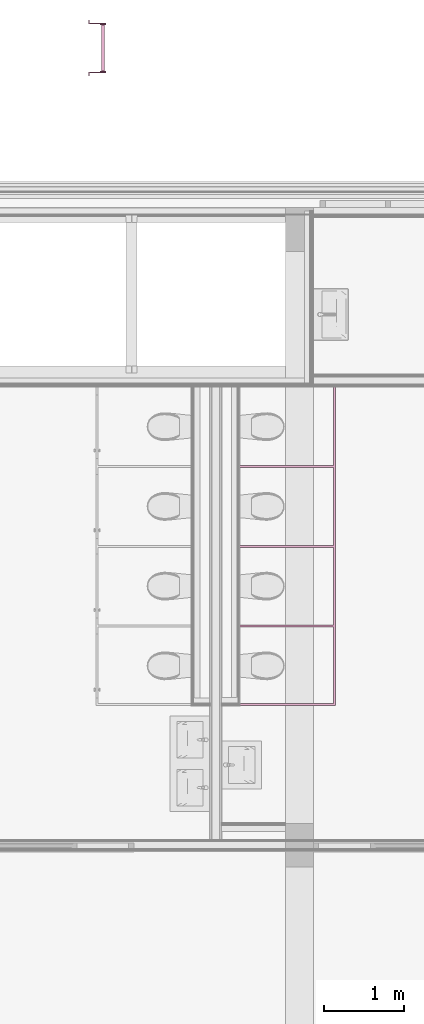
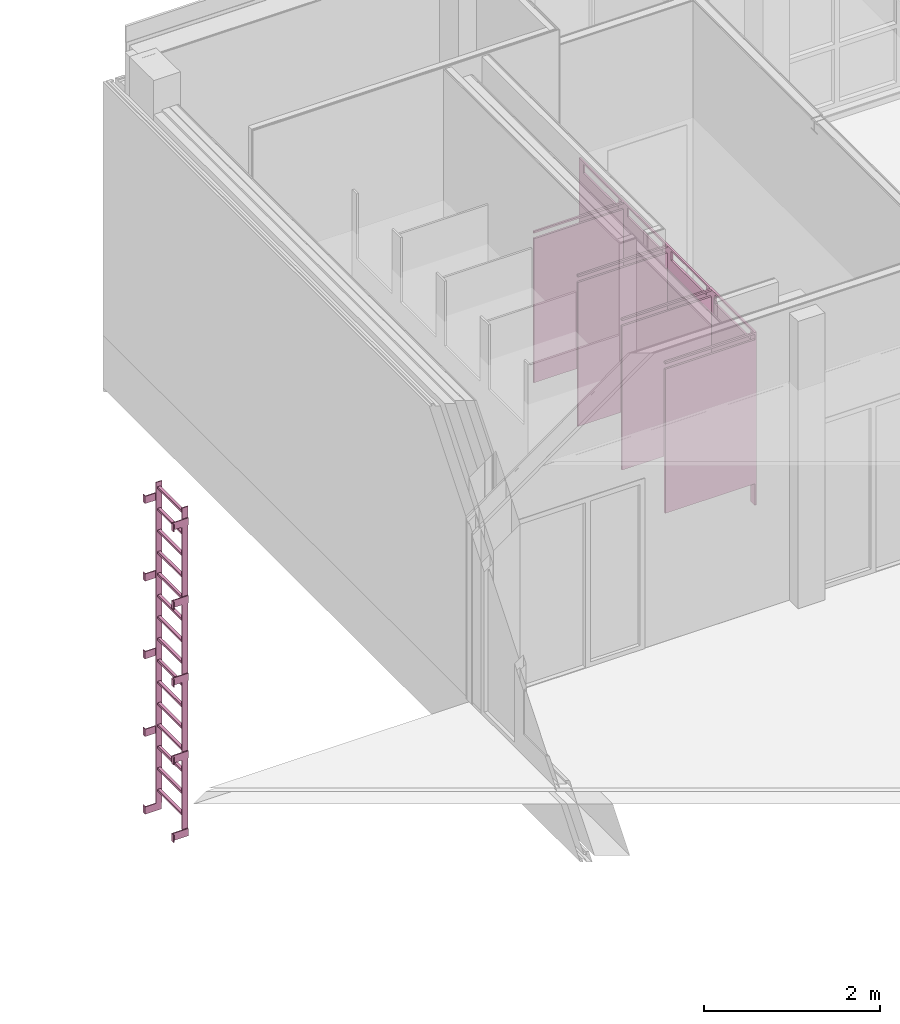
# One storey, part 54 of 54: 2 furnishings.
"""IFC2X3 building model written with IfcOpenShell, lengths in millimetres."""

from ifc_helpers import new_model, entity, si_unit, converted_unit, derived_unit, money_unit, direction, frame, origin_with_axes, place, context, subcontext, project, spatial, open_shell, faceted_brep, surface_model, type_object, element, save


model = new_model("IFC2X3")

# Units and contexts
model_context = context("Model", 3, precision=0.01, world=origin_with_axes(), true_north=direction((0.0, 1.0)))
body_context = subcontext(model_context, "Body", "Model", "MODEL_VIEW")
ifc_project = project(units=[si_unit("LENGTHUNIT", "METRE", prefix="MILLI"), si_unit("AREAUNIT", "SQUARE_METRE"), si_unit("VOLUMEUNIT", "CUBIC_METRE"), converted_unit("PLANEANGLEUNIT", "DEGREE", entity("IfcPlaneAngleMeasure", 0.0174532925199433), si_unit("PLANEANGLEUNIT", "RADIAN"), dimensions=[0, 0, 0, 0, 0, 0, 0]), money_unit("EUR"), converted_unit("TIMEUNIT", "Year", entity("IfcTimeMeasure", 31557600.0), si_unit("TIMEUNIT", "SECOND"), dimensions=[0, 0, 1, 0, 0, 0, 0]), si_unit("MASSUNIT", "GRAM", prefix="KILO"), si_unit("THERMODYNAMICTEMPERATUREUNIT", "DEGREE_CELSIUS"), si_unit("LUMINOUSINTENSITYUNIT", "LUMEN"), si_unit("ENERGYUNIT", "JOULE", prefix="MEGA"), derived_unit("THERMALCONDUCTANCEUNIT", [(si_unit("POWERUNIT", "WATT"), 1), (si_unit("LENGTHUNIT", "METRE"), -1), (si_unit("THERMODYNAMICTEMPERATUREUNIT", "KELVIN"), -1)]), derived_unit("SPECIFICHEATCAPACITYUNIT", [(si_unit("ENERGYUNIT", "JOULE"), 1), (si_unit("MASSUNIT", "GRAM", prefix="KILO"), -1), (si_unit("THERMODYNAMICTEMPERATUREUNIT", "KELVIN"), -1)]), derived_unit("MASSDENSITYUNIT", [(si_unit("MASSUNIT", "GRAM", prefix="KILO"), 1), (si_unit("VOLUMEUNIT", "CUBIC_METRE"), -1)])], contexts=[model_context])

# Site, building, storey
site_placement = place(None, origin_with_axes())
site = spatial("IfcSite", under=ifc_project, at=site_placement, Name="<site naam>", CompositionType="ELEMENT")
building_placement = place(site_placement, origin_with_axes())
building = spatial("IfcBuilding", under=site, at=building_placement, Name="<Naam gebouw>", CompositionType="ELEMENT")
storey_placement = place(building_placement, frame((0.0, 0.0, 8500.0), z_axis=(0.0, 0.0, 1.0), x_axis=(1.0, 0.0, 0.0)))
storey = spatial("IfcBuildingStorey", under=building, at=storey_placement, Name="02 2e verdieping", CompositionType="ELEMENT", Elevation=8500.0)

# Furnishings
furnishing_element_type_1 = type_object("IfcFurnishingElementType", Name="Muurladder 27")
furnishing_1_placement = place(storey_placement, frame((13356.60985489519, 22000.00000794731, -8500.0), z_axis=(0.0, 0.0, 1.0), x_axis=(0.0, 1.0, 0.0)))
element("IfcFurnishingElement", 1, at=furnishing_1_placement, inside=storey, type_object=furnishing_element_type_1, Name="47_Object-011_Lege", context=body_context, shape_type="Brep", body=[
    faceted_brep([(-350.8, 0.0, 101.6), (-350.8, -12.7, 101.6), (-350.8, -12.7, 203.2), (-350.8, 0.0, 203.2), (-300.0, 0.0, 101.6), (-300.0, -215.9, 101.6), (-312.7, -215.9, 101.6), (-312.7, -12.7, 101.6), (-312.7, -12.7, 203.2), (-312.7, -215.9, 203.2), (-300.0, -215.9, 203.2), (-300.0, 0.0, 203.2)], [[[0, 1, 2, 3]], [[0, 4, 5, 6, 7, 1]], [[1, 7, 8, 2]], [[3, 2, 8, 9, 10, 11]], [[4, 0, 3, 11]], [[5, 4, 11, 10]], [[6, 5, 10, 9]], [[7, 6, 9, 8]]]),
    faceted_brep([(-350.8, 0.0, 1179.349544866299), (-350.8, -12.7, 1179.349544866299), (-350.8, -12.7, 1280.949544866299), (-350.8, 0.0, 1280.949544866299), (-300.0, 0.0, 1179.349544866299), (-300.0, -215.9, 1179.349544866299), (-312.7, -215.9, 1179.349544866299), (-312.7, -12.7, 1179.349544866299), (-312.7, -12.7, 1280.949544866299), (-312.7, -215.9, 1280.949544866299), (-300.0, -215.9, 1280.949544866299), (-300.0, 0.0, 1280.949544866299)], [[[0, 1, 2, 3]], [[0, 4, 5, 6, 7, 1]], [[1, 7, 8, 2]], [[3, 2, 8, 9, 10, 11]], [[4, 0, 3, 11]], [[5, 4, 11, 10]], [[6, 5, 10, 9]], [[7, 6, 9, 8]]]),
    faceted_brep([(-350.8, 0.0, 2257.099089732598), (-350.8, -12.7, 2257.099089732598), (-350.8, -12.7, 2358.699089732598), (-350.8, 0.0, 2358.699089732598), (-300.0, 0.0, 2257.099089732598), (-300.0, -215.9, 2257.099089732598), (-312.7, -215.9, 2257.099089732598), (-312.7, -12.7, 2257.099089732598), (-312.7, -12.7, 2358.699089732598), (-312.7, -215.9, 2358.699089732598), (-300.0, -215.9, 2358.699089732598), (-300.0, 0.0, 2358.699089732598)], [[[0, 1, 2, 3]], [[0, 4, 5, 6, 7, 1]], [[1, 7, 8, 2]], [[3, 2, 8, 9, 10, 11]], [[4, 0, 3, 11]], [[5, 4, 11, 10]], [[6, 5, 10, 9]], [[7, 6, 9, 8]]]),
    faceted_brep([(-350.8, 0.0, 3334.848634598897), (-350.8, -12.7, 3334.848634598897), (-350.8, -12.7, 3436.448634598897), (-350.8, 0.0, 3436.448634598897), (-300.0, 0.0, 3334.848634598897), (-300.0, -215.9, 3334.848634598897), (-312.7, -215.9, 3334.848634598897), (-312.7, -12.7, 3334.848634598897), (-312.7, -12.7, 3436.448634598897), (-312.7, -215.9, 3436.448634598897), (-300.0, -215.9, 3436.448634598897), (-300.0, 0.0, 3436.448634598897)], [[[0, 1, 2, 3]], [[0, 4, 5, 6, 7, 1]], [[1, 7, 8, 2]], [[3, 2, 8, 9, 10, 11]], [[4, 0, 3, 11]], [[5, 4, 11, 10]], [[6, 5, 10, 9]], [[7, 6, 9, 8]]]),
    faceted_brep([(-350.8, 0.0, 4412.598179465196), (-350.8, -12.7, 4412.598179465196), (-350.8, -12.7, 4514.198179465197), (-350.8, 0.0, 4514.198179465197), (-300.0, 0.0, 4412.598179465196), (-300.0, -215.9, 4412.598179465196), (-312.7, -215.9, 4412.598179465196), (-312.7, -12.7, 4412.598179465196), (-312.7, -12.7, 4514.198179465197), (-312.7, -215.9, 4514.198179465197), (-300.0, -215.9, 4514.198179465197), (-300.0, 0.0, 4514.198179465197)], [[[0, 1, 2, 3]], [[0, 4, 5, 6, 7, 1]], [[1, 7, 8, 2]], [[3, 2, 8, 9, 10, 11]], [[4, 0, 3, 11]], [[5, 4, 11, 10]], [[6, 5, 10, 9]], [[7, 6, 9, 8]]]),
    faceted_brep([(300.0, 0.0, 101.6), (300.0, -215.9, 101.6), (300.0, -215.9, 203.2), (300.0, 0.0, 203.2), (350.8, 0.0, 101.6), (350.8, -12.7, 101.6), (312.7, -12.7, 101.6), (312.7, -215.9, 101.6), (312.7, -215.9, 203.2), (312.7, -12.7, 203.2), (350.8, -12.7, 203.2), (350.8, 0.0, 203.2)], [[[0, 1, 2, 3]], [[0, 4, 5, 6, 7, 1]], [[1, 7, 8, 2]], [[3, 2, 8, 9, 10, 11]], [[4, 0, 3, 11]], [[5, 4, 11, 10]], [[6, 5, 10, 9]], [[7, 6, 9, 8]]]),
    faceted_brep([(300.0, 0.0, 1179.349544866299), (300.0, -215.9, 1179.349544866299), (300.0, -215.9, 1280.949544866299), (300.0, 0.0, 1280.949544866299), (350.8, 0.0, 1179.349544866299), (350.8, -12.7, 1179.349544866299), (312.7, -12.7, 1179.349544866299), (312.7, -215.9, 1179.349544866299), (312.7, -215.9, 1280.949544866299), (312.7, -12.7, 1280.949544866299), (350.8, -12.7, 1280.949544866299), (350.8, 0.0, 1280.949544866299)], [[[0, 1, 2, 3]], [[0, 4, 5, 6, 7, 1]], [[1, 7, 8, 2]], [[3, 2, 8, 9, 10, 11]], [[4, 0, 3, 11]], [[5, 4, 11, 10]], [[6, 5, 10, 9]], [[7, 6, 9, 8]]]),
    faceted_brep([(300.0, 0.0, 2257.099089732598), (300.0, -215.9, 2257.099089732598), (300.0, -215.9, 2358.699089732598), (300.0, 0.0, 2358.699089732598), (350.8, 0.0, 2257.099089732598), (350.8, -12.7, 2257.099089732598), (312.7, -12.7, 2257.099089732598), (312.7, -215.9, 2257.099089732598), (312.7, -215.9, 2358.699089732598), (312.7, -12.7, 2358.699089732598), (350.8, -12.7, 2358.699089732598), (350.8, 0.0, 2358.699089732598)], [[[0, 1, 2, 3]], [[0, 4, 5, 6, 7, 1]], [[1, 7, 8, 2]], [[3, 2, 8, 9, 10, 11]], [[4, 0, 3, 11]], [[5, 4, 11, 10]], [[6, 5, 10, 9]], [[7, 6, 9, 8]]]),
    faceted_brep([(300.0, 0.0, 3334.848634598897), (300.0, -215.9, 3334.848634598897), (300.0, -215.9, 3436.448634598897), (300.0, 0.0, 3436.448634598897), (350.8, 0.0, 3334.848634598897), (350.8, -12.7, 3334.848634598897), (312.7, -12.7, 3334.848634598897), (312.7, -215.9, 3334.848634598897), (312.7, -215.9, 3436.448634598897), (312.7, -12.7, 3436.448634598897), (350.8, -12.7, 3436.448634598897), (350.8, 0.0, 3436.448634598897)], [[[0, 1, 2, 3]], [[0, 4, 5, 6, 7, 1]], [[1, 7, 8, 2]], [[3, 2, 8, 9, 10, 11]], [[4, 0, 3, 11]], [[5, 4, 11, 10]], [[6, 5, 10, 9]], [[7, 6, 9, 8]]]),
    faceted_brep([(300.0, 0.0, 4412.598179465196), (300.0, -215.9, 4412.598179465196), (300.0, -215.9, 4514.198179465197), (300.0, 0.0, 4514.198179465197), (350.8, 0.0, 4412.598179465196), (350.8, -12.7, 4412.598179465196), (312.7, -12.7, 4412.598179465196), (312.7, -215.9, 4412.598179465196), (312.7, -215.9, 4514.198179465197), (312.7, -12.7, 4514.198179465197), (350.8, -12.7, 4514.198179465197), (350.8, 0.0, 4514.198179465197)], [[[0, 1, 2, 3]], [[0, 4, 5, 6, 7, 1]], [[1, 7, 8, 2]], [[3, 2, 8, 9, 10, 11]], [[4, 0, 3, 11]], [[5, 4, 11, 10]], [[6, 5, 10, 9]], [[7, 6, 9, 8]]]),
    faceted_brep([(-300.0, -215.9, 203.2), (-287.3, -215.9, 203.2), (-287.3, -215.9, 4666.598179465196), (-300.0, -215.9, 4666.598179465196), (-300.0, -139.7, 203.2), (-287.3, -139.7, 203.2), (-287.3, -139.7, 4666.598179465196), (-300.0, -139.7, 4666.598179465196)], [[[0, 1, 2, 3]], [[0, 4, 5, 1]], [[1, 5, 6, 2]], [[3, 2, 6, 7]], [[4, 0, 3, 7]], [[5, 4, 7, 6]]]),
    faceted_brep([(300.0, -139.7, 203.2), (287.3, -139.7, 203.2), (287.3, -139.7, 4666.598179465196), (300.0, -139.7, 4666.598179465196), (300.0, -215.9, 203.2), (287.3, -215.9, 203.2), (287.3, -215.9, 4666.598179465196), (300.0, -215.9, 4666.598179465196)], [[[0, 1, 2, 3]], [[0, 4, 5, 1]], [[1, 5, 6, 2]], [[3, 2, 6, 7]], [[4, 0, 3, 7]], [[5, 4, 7, 6]]]),
    faceted_brep([(287.3, -196.85, 371.6), (287.3, -158.75, 371.6), (287.3, -158.75, 401.6), (287.3, -196.85, 401.6), (-287.3, -196.85, 371.6), (-287.3, -158.75, 371.6), (-287.3, -158.75, 401.6), (-287.3, -196.85, 401.6)], [[[0, 1, 2, 3]], [[0, 4, 5, 1]], [[1, 5, 6, 2]], [[3, 2, 6, 7]], [[4, 0, 3, 7]], [[5, 4, 7, 6]]]),
    faceted_brep([(287.3, -196.85, 671.6), (287.3, -158.75, 671.6), (287.3, -158.75, 701.6), (287.3, -196.85, 701.6), (-287.3, -196.85, 671.6), (-287.3, -158.75, 671.6), (-287.3, -158.75, 701.6), (-287.3, -196.85, 701.6)], [[[0, 1, 2, 3]], [[0, 4, 5, 1]], [[1, 5, 6, 2]], [[3, 2, 6, 7]], [[4, 0, 3, 7]], [[5, 4, 7, 6]]]),
    faceted_brep([(287.3, -196.85, 971.6), (287.3, -158.75, 971.6), (287.3, -158.75, 1001.6), (287.3, -196.85, 1001.6), (-287.3, -196.85, 971.6), (-287.3, -158.75, 971.6), (-287.3, -158.75, 1001.6), (-287.3, -196.85, 1001.6)], [[[0, 1, 2, 3]], [[0, 4, 5, 1]], [[1, 5, 6, 2]], [[3, 2, 6, 7]], [[4, 0, 3, 7]], [[5, 4, 7, 6]]]),
    faceted_brep([(287.3, -196.85, 1271.6), (287.3, -158.75, 1271.6), (287.3, -158.75, 1301.6), (287.3, -196.85, 1301.6), (-287.3, -196.85, 1271.6), (-287.3, -158.75, 1271.6), (-287.3, -158.75, 1301.6), (-287.3, -196.85, 1301.6)], [[[0, 1, 2, 3]], [[0, 4, 5, 1]], [[1, 5, 6, 2]], [[3, 2, 6, 7]], [[4, 0, 3, 7]], [[5, 4, 7, 6]]]),
    faceted_brep([(287.3, -196.85, 1571.6), (287.3, -158.75, 1571.6), (287.3, -158.75, 1601.6), (287.3, -196.85, 1601.6), (-287.3, -196.85, 1571.6), (-287.3, -158.75, 1571.6), (-287.3, -158.75, 1601.6), (-287.3, -196.85, 1601.6)], [[[0, 1, 2, 3]], [[0, 4, 5, 1]], [[1, 5, 6, 2]], [[3, 2, 6, 7]], [[4, 0, 3, 7]], [[5, 4, 7, 6]]]),
    faceted_brep([(287.3, -196.85, 1871.6), (287.3, -158.75, 1871.6), (287.3, -158.75, 1901.6), (287.3, -196.85, 1901.6), (-287.3, -196.85, 1871.6), (-287.3, -158.75, 1871.6), (-287.3, -158.75, 1901.6), (-287.3, -196.85, 1901.6)], [[[0, 1, 2, 3]], [[0, 4, 5, 1]], [[1, 5, 6, 2]], [[3, 2, 6, 7]], [[4, 0, 3, 7]], [[5, 4, 7, 6]]]),
    faceted_brep([(287.3, -196.85, 2171.6), (287.3, -158.75, 2171.6), (287.3, -158.75, 2201.6), (287.3, -196.85, 2201.6), (-287.3, -196.85, 2171.6), (-287.3, -158.75, 2171.6), (-287.3, -158.75, 2201.6), (-287.3, -196.85, 2201.6)], [[[0, 1, 2, 3]], [[0, 4, 5, 1]], [[1, 5, 6, 2]], [[3, 2, 6, 7]], [[4, 0, 3, 7]], [[5, 4, 7, 6]]]),
    faceted_brep([(287.3, -196.85, 2471.6), (287.3, -158.75, 2471.6), (287.3, -158.75, 2501.6), (287.3, -196.85, 2501.6), (-287.3, -196.85, 2471.6), (-287.3, -158.75, 2471.6), (-287.3, -158.75, 2501.6), (-287.3, -196.85, 2501.6)], [[[0, 1, 2, 3]], [[0, 4, 5, 1]], [[1, 5, 6, 2]], [[3, 2, 6, 7]], [[4, 0, 3, 7]], [[5, 4, 7, 6]]]),
    faceted_brep([(287.3, -196.85, 2771.6), (287.3, -158.75, 2771.6), (287.3, -158.75, 2801.599999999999), (287.3, -196.85, 2801.599999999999), (-287.3, -196.85, 2771.6), (-287.3, -158.75, 2771.6), (-287.3, -158.75, 2801.599999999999), (-287.3, -196.85, 2801.599999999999)], [[[0, 1, 2, 3]], [[0, 4, 5, 1]], [[1, 5, 6, 2]], [[3, 2, 6, 7]], [[4, 0, 3, 7]], [[5, 4, 7, 6]]]),
    faceted_brep([(287.3, -196.85, 3071.599999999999), (287.3, -158.75, 3071.599999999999), (287.3, -158.75, 3101.599999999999), (287.3, -196.85, 3101.599999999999), (-287.3, -196.85, 3071.599999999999), (-287.3, -158.75, 3071.599999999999), (-287.3, -158.75, 3101.599999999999), (-287.3, -196.85, 3101.599999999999)], [[[0, 1, 2, 3]], [[0, 4, 5, 1]], [[1, 5, 6, 2]], [[3, 2, 6, 7]], [[4, 0, 3, 7]], [[5, 4, 7, 6]]]),
    faceted_brep([(287.3, -196.85, 3371.599999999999), (287.3, -158.75, 3371.599999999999), (287.3, -158.75, 3401.599999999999), (287.3, -196.85, 3401.599999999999), (-287.3, -196.85, 3371.599999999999), (-287.3, -158.75, 3371.599999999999), (-287.3, -158.75, 3401.599999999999), (-287.3, -196.85, 3401.599999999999)], [[[0, 1, 2, 3]], [[0, 4, 5, 1]], [[1, 5, 6, 2]], [[3, 2, 6, 7]], [[4, 0, 3, 7]], [[5, 4, 7, 6]]]),
    faceted_brep([(287.3, -196.85, 3671.599999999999), (287.3, -158.75, 3671.599999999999), (287.3, -158.75, 3701.599999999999), (287.3, -196.85, 3701.599999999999), (-287.3, -196.85, 3671.599999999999), (-287.3, -158.75, 3671.599999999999), (-287.3, -158.75, 3701.599999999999), (-287.3, -196.85, 3701.599999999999)], [[[0, 1, 2, 3]], [[0, 4, 5, 1]], [[1, 5, 6, 2]], [[3, 2, 6, 7]], [[4, 0, 3, 7]], [[5, 4, 7, 6]]]),
    faceted_brep([(287.3, -196.85, 3971.599999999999), (287.3, -158.75, 3971.599999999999), (287.3, -158.75, 4001.599999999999), (287.3, -196.85, 4001.599999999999), (-287.3, -196.85, 3971.599999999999), (-287.3, -158.75, 3971.599999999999), (-287.3, -158.75, 4001.599999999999), (-287.3, -196.85, 4001.599999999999)], [[[0, 1, 2, 3]], [[0, 4, 5, 1]], [[1, 5, 6, 2]], [[3, 2, 6, 7]], [[4, 0, 3, 7]], [[5, 4, 7, 6]]]),
    faceted_brep([(287.3, -196.85, 4271.599999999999), (287.3, -158.75, 4271.599999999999), (287.3, -158.75, 4301.599999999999), (287.3, -196.85, 4301.599999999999), (-287.3, -196.85, 4271.599999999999), (-287.3, -158.75, 4271.599999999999), (-287.3, -158.75, 4301.599999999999), (-287.3, -196.85, 4301.599999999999)], [[[0, 1, 2, 3]], [[0, 4, 5, 1]], [[1, 5, 6, 2]], [[3, 2, 6, 7]], [[4, 0, 3, 7]], [[5, 4, 7, 6]]]),
    faceted_brep([(287.3, -196.85, 4571.599999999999), (287.3, -158.75, 4571.599999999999), (287.3, -158.75, 4601.599999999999), (287.3, -196.85, 4601.599999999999), (-287.3, -196.85, 4571.599999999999), (-287.3, -158.75, 4571.599999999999), (-287.3, -158.75, 4601.599999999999), (-287.3, -196.85, 4601.599999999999)], [[[0, 1, 2, 3]], [[0, 4, 5, 1]], [[1, 5, 6, 2]], [[3, 2, 6, 7]], [[4, 0, 3, 7]], [[5, 4, 7, 6]]]),
])
furnishing_element_type_2 = type_object("IfcFurnishingElementType", Name="Sanitaire wanden 27")
furnishing_2_placement = place(storey_placement, frame((16450.47040249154, 17750.00396071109, 0.0), z_axis=(0.0, 0.0, 1.0), x_axis=(0.0, 1.0, 0.0)))
element("IfcFurnishingElement", 2, at=furnishing_2_placement, inside=storey, type_object=furnishing_element_type_2, Name="72_Sanitaire wanden Kupan_Lege", context=body_context, shape_type="SurfaceModel", body=[
    faceted_brep([(0.0, 0.0, 0.0), (0.0, 0.0, 2375.0), (-99.99999999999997, 0.0, 2375.0), (-99.99999999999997, 0.0, 0.0), (0.0, 25.0, 0.0), (0.0, 25.0, 2375.0), (-99.99999999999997, 25.0, 2375.0), (-99.99999999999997, 25.0, 0.0)], [[[0, 1, 2, 3]], [[4, 5, 1, 0]], [[1, 5, 6, 2]], [[3, 2, 6, 7]], [[0, 3, 7, 4]], [[7, 6, 5, 4]]]),
    surface_model("IfcShellBasedSurfaceModel", [(-900.0, 0.0, 0.0), (-900.0, 0.0, 2375.0), (-1000.0, 0.0, 2375.0), (-1000.0, 0.0, 0.0), (-900.0, 25.0, 0.0), (-900.0, 25.0, 2375.0), (-1000.0, 25.0, 2375.0), (-1000.0, 25.0, 0.0)], [open_shell([[[0, 1, 2, 3]], [[4, 5, 1, 0]], [[1, 5, 6, 2]], [[0, 3, 7, 4]], [[7, 6, 5, 4]]])]),
    surface_model("IfcShellBasedSurfaceModel", [(0.0, 0.0, 0.0), (-99.99999999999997, 0.0, 0.0), (-99.99999999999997, 25.0, 0.0), (0.0, 25.0, 0.0)], [open_shell([[[0, 1, 2, 3]]])]),
    surface_model("IfcShellBasedSurfaceModel", [(-900.0, 0.0, 0.0), (-1000.0, 0.0, 0.0), (-1000.0, 25.0, 0.0), (-900.0, 25.0, 0.0)], [open_shell([[[0, 1, 2, 3]]])]),
    surface_model("IfcShellBasedSurfaceModel", [(-1000.0, 25.0, 2375.0), (-1000.0, 25.0, 2400.0), (0.0, 25.0, 2400.0), (0.0, 25.0, 2375.0), (-1000.0, 0.0, 2400.0), (0.0, 0.0, 2400.0), (0.0, 0.0, 2375.0), (-1000.0, 0.0, 2375.0)], [open_shell([[[0, 1, 2, 3]], [[4, 5, 2, 1]], [[3, 2, 5, 6]], [[7, 0, 3, 6]], [[6, 5, 4, 7]]])]),
    faceted_brep([(-99.99999999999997, 0.0, 250.0), (-99.99999999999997, 0.0, 2250.0), (-900.0, 0.0, 2250.0), (-900.0, 0.0, 250.0), (-99.99999999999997, 25.0, 250.0), (-99.99999999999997, 25.0, 2250.0), (-900.0, 25.0, 2250.0), (-900.0, 25.0, 250.0)], [[[0, 1, 2, 3]], [[4, 5, 1, 0]], [[1, 5, 6, 2]], [[3, 2, 6, 7]], [[0, 3, 7, 4]], [[7, 6, 5, 4]]]),
    surface_model("IfcShellBasedSurfaceModel", [(-1000.0, 0.0, 0.0), (-1000.0, 0.0, 2375.0), (-1100.0, 0.0, 2375.0), (-1100.0, 0.0, 0.0), (-1000.0, 25.0, 2375.0), (-1100.0, 25.0, 2375.0), (-1100.0, 25.0, 0.0), (-1000.0, 25.0, 0.0)], [open_shell([[[0, 1, 2, 3]], [[1, 4, 5, 2]], [[3, 2, 5, 6]], [[0, 3, 6, 7]], [[6, 5, 4, 7]]])]),
    surface_model("IfcShellBasedSurfaceModel", [(-1900.0, 0.0, 0.0), (-1900.0, 0.0, 2375.0), (-2000.0, 0.0, 2375.0), (-2000.0, 0.0, 0.0), (-1900.0, 25.0, 0.0), (-1900.0, 25.0, 2375.0), (-2000.0, 25.0, 2375.0), (-2000.0, 25.0, 0.0)], [open_shell([[[0, 1, 2, 3]], [[4, 5, 1, 0]], [[1, 5, 6, 2]], [[0, 3, 7, 4]], [[7, 6, 5, 4]]])]),
    surface_model("IfcShellBasedSurfaceModel", [(-1000.0, 0.0, 0.0), (-1100.0, 0.0, 0.0), (-1100.0, 25.0, 0.0), (-1000.0, 25.0, 0.0)], [open_shell([[[0, 1, 2, 3]]])]),
    surface_model("IfcShellBasedSurfaceModel", [(-1900.0, 0.0, 0.0), (-2000.0, 0.0, 0.0), (-2000.0, 25.0, 0.0), (-1900.0, 25.0, 0.0)], [open_shell([[[0, 1, 2, 3]]])]),
    surface_model("IfcShellBasedSurfaceModel", [(-2000.0, 25.0, 2375.0), (-2000.0, 25.0, 2400.0), (-1000.0, 25.0, 2400.0), (-1000.0, 25.0, 2375.0), (-2000.0, 0.0, 2400.0), (-1000.0, 0.0, 2400.0), (-2000.0, 0.0, 2375.0), (-1000.0, 0.0, 2375.0)], [open_shell([[[0, 1, 2, 3]], [[4, 5, 2, 1]], [[6, 0, 3, 7]], [[7, 5, 4, 6]]])]),
    faceted_brep([(-1100.0, 0.0, 250.0), (-1100.0, 0.0, 2250.0), (-1900.0, 0.0, 2250.0), (-1900.0, 0.0, 250.0), (-1100.0, 25.0, 250.0), (-1100.0, 25.0, 2250.0), (-1900.0, 25.0, 2250.0), (-1900.0, 25.0, 250.0)], [[[0, 1, 2, 3]], [[4, 5, 1, 0]], [[1, 5, 6, 2]], [[3, 2, 6, 7]], [[0, 3, 7, 4]], [[7, 6, 5, 4]]]),
    surface_model("IfcShellBasedSurfaceModel", [(-2000.0, 0.0, 0.0), (-2000.0, 0.0, 2375.0), (-2100.0, 0.0, 2375.0), (-2100.0, 0.0, 0.0), (-2000.0, 25.0, 2375.0), (-2100.0, 25.0, 2375.0), (-2100.0, 25.0, 0.0), (-2000.0, 25.0, 0.0)], [open_shell([[[0, 1, 2, 3]], [[1, 4, 5, 2]], [[3, 2, 5, 6]], [[0, 3, 6, 7]], [[6, 5, 4, 7]]])]),
    surface_model("IfcShellBasedSurfaceModel", [(-2900.0, 0.0, 0.0), (-2900.0, 0.0, 2375.0), (-3000.0, 0.0, 2375.0), (-3000.0, 0.0, 0.0), (-2900.0, 25.0, 0.0), (-2900.0, 25.0, 2375.0), (-3000.0, 25.0, 2375.0), (-3000.0, 25.0, 0.0)], [open_shell([[[0, 1, 2, 3]], [[4, 5, 1, 0]], [[1, 5, 6, 2]], [[0, 3, 7, 4]], [[7, 6, 5, 4]]])]),
    surface_model("IfcShellBasedSurfaceModel", [(-2000.0, 0.0, 0.0), (-2100.0, 0.0, 0.0), (-2100.0, 25.0, 0.0), (-2000.0, 25.0, 0.0)], [open_shell([[[0, 1, 2, 3]]])]),
    surface_model("IfcShellBasedSurfaceModel", [(-2900.0, 0.0, 0.0), (-3000.0, 0.0, 0.0), (-3000.0, 25.0, 0.0), (-2900.0, 25.0, 0.0)], [open_shell([[[0, 1, 2, 3]]])]),
    surface_model("IfcShellBasedSurfaceModel", [(-3000.0, 25.0, 2375.0), (-3000.0, 25.0, 2400.0), (-2000.0, 25.0, 2400.0), (-2000.0, 25.0, 2375.0), (-3000.0, 0.0, 2400.0), (-2000.0, 0.0, 2400.0), (-3000.0, 0.0, 2375.0), (-2000.0, 0.0, 2375.0)], [open_shell([[[0, 1, 2, 3]], [[4, 5, 2, 1]], [[6, 0, 3, 7]], [[7, 5, 4, 6]]])]),
    faceted_brep([(-2100.0, 0.0, 250.0), (-2100.0, 0.0, 2250.0), (-2900.0, 0.0, 2250.0), (-2900.0, 0.0, 250.0), (-2100.0, 25.0, 250.0), (-2100.0, 25.0, 2250.0), (-2900.0, 25.0, 2250.0), (-2900.0, 25.0, 250.0)], [[[0, 1, 2, 3]], [[4, 5, 1, 0]], [[1, 5, 6, 2]], [[3, 2, 6, 7]], [[0, 3, 7, 4]], [[7, 6, 5, 4]]]),
    surface_model("IfcShellBasedSurfaceModel", [(-3000.0, 0.0, 0.0), (-3000.0, 0.0, 2375.0), (-3100.0, 0.0, 2375.0), (-3100.0, 0.0, 0.0), (-3000.0, 25.0, 2375.0), (-3100.0, 25.0, 2375.0), (-3100.0, 25.0, 0.0), (-3000.0, 25.0, 0.0)], [open_shell([[[0, 1, 2, 3]], [[1, 4, 5, 2]], [[3, 2, 5, 6]], [[0, 3, 6, 7]], [[6, 5, 4, 7]]])]),
    faceted_brep([(-3900.0, 0.0, 0.0), (-3900.0, 0.0, 2375.0), (-4000.0, 0.0, 2375.0), (-4000.0, 0.0, 0.0), (-3900.0, 25.0, 0.0), (-3900.0, 25.0, 2375.0), (-4000.0, 25.0, 2375.0), (-4000.0, 25.0, 0.0)], [[[0, 1, 2, 3]], [[4, 5, 1, 0]], [[1, 5, 6, 2]], [[3, 2, 6, 7]], [[0, 3, 7, 4]], [[7, 6, 5, 4]]]),
    surface_model("IfcShellBasedSurfaceModel", [(-3000.0, 0.0, 0.0), (-3100.0, 0.0, 0.0), (-3100.0, 25.0, 0.0), (-3000.0, 25.0, 0.0)], [open_shell([[[0, 1, 2, 3]]])]),
    surface_model("IfcShellBasedSurfaceModel", [(-3900.0, 0.0, 0.0), (-4000.0, 0.0, 0.0), (-4000.0, 25.0, 0.0), (-3900.0, 25.0, 0.0)], [open_shell([[[0, 1, 2, 3]]])]),
    surface_model("IfcShellBasedSurfaceModel", [(-4000.0, 0.0, 2375.0), (-4000.0, 0.0, 2400.0), (-4000.0, 25.0, 2400.0), (-4000.0, 25.0, 2375.0), (-3000.0, 0.0, 2375.0), (-3000.0, 0.0, 2400.0), (-3000.0, 25.0, 2400.0), (-3000.0, 25.0, 2375.0)], [open_shell([[[0, 1, 2, 3]], [[4, 5, 1, 0]], [[1, 5, 6, 2]], [[3, 2, 6, 7]], [[0, 3, 7, 4]]])]),
    faceted_brep([(-3100.0, 0.0, 250.0), (-3100.0, 0.0, 2250.0), (-3900.0, 0.0, 2250.0), (-3900.0, 0.0, 250.0), (-3100.0, 25.0, 250.0), (-3100.0, 25.0, 2250.0), (-3900.0, 25.0, 2250.0), (-3900.0, 25.0, 250.0)], [[[0, 1, 2, 3]], [[4, 5, 1, 0]], [[1, 5, 6, 2]], [[3, 2, 6, 7]], [[0, 3, 7, 4]], [[7, 6, 5, 4]]]),
    faceted_brep([(-1012.5, 25.0, 300.0), (-1012.5, 25.0, 2300.0), (-1012.5, 1200.0, 2300.0), (-1012.5, 1200.0, 300.0), (-987.4999999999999, 25.0, 300.0), (-987.4999999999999, 25.0, 2300.0), (-987.5, 1200.0, 2300.0), (-987.5, 1200.0, 300.0)], [[[0, 1, 2, 3]], [[4, 5, 1, 0]], [[1, 5, 6, 2]], [[3, 2, 6, 7]], [[0, 3, 7, 4]], [[7, 6, 5, 4]]]),
    faceted_brep([(-1012.5, 25.0, 2375.0), (-1012.5, 25.0, 2400.0), (-1012.5, 1200.0, 2400.0), (-1012.5, 1200.0, 2375.0), (-987.4999999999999, 25.0, 2375.0), (-987.4999999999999, 25.0, 2400.0), (-987.5, 1200.0, 2400.0), (-987.5, 1200.0, 2375.0)], [[[0, 1, 2, 3]], [[4, 5, 1, 0]], [[1, 5, 6, 2]], [[3, 2, 6, 7]], [[0, 3, 7, 4]], [[7, 6, 5, 4]]]),
    faceted_brep([(-2012.5, 25.0, 300.0), (-2012.5, 25.0, 2300.0), (-2012.5, 1200.0, 2300.0), (-2012.5, 1200.0, 300.0), (-1987.5, 25.0, 300.0), (-1987.5, 25.0, 2300.0), (-1987.5, 1200.0, 2300.0), (-1987.5, 1200.0, 300.0)], [[[0, 1, 2, 3]], [[4, 5, 1, 0]], [[1, 5, 6, 2]], [[3, 2, 6, 7]], [[0, 3, 7, 4]], [[7, 6, 5, 4]]]),
    faceted_brep([(-2012.5, 25.0, 2375.0), (-2012.5, 25.0, 2400.0), (-2012.5, 1200.0, 2400.0), (-2012.5, 1200.0, 2375.0), (-1987.5, 25.0, 2375.0), (-1987.5, 25.0, 2400.0), (-1987.5, 1200.0, 2400.0), (-1987.5, 1200.0, 2375.0)], [[[0, 1, 2, 3]], [[4, 5, 1, 0]], [[1, 5, 6, 2]], [[3, 2, 6, 7]], [[0, 3, 7, 4]], [[7, 6, 5, 4]]]),
    faceted_brep([(-3012.5, 25.0, 300.0), (-3012.5, 25.0, 2300.0), (-3012.5, 1200.0, 2300.0), (-3012.5, 1200.0, 300.0), (-2987.5, 25.0, 300.0), (-2987.5, 25.0, 2300.0), (-2987.5, 1200.0, 2300.0), (-2987.5, 1200.0, 300.0)], [[[0, 1, 2, 3]], [[4, 5, 1, 0]], [[1, 5, 6, 2]], [[3, 2, 6, 7]], [[0, 3, 7, 4]], [[7, 6, 5, 4]]]),
    faceted_brep([(-3012.5, 25.0, 2375.0), (-3012.5, 25.0, 2400.0), (-3012.5, 1200.0, 2400.0), (-3012.5, 1200.0, 2375.0), (-2987.5, 25.0, 2375.0), (-2987.5, 25.0, 2400.0), (-2987.5, 1200.0, 2400.0), (-2987.5, 1200.0, 2375.0)], [[[0, 1, 2, 3]], [[4, 5, 1, 0]], [[1, 5, 6, 2]], [[3, 2, 6, 7]], [[0, 3, 7, 4]], [[7, 6, 5, 4]]]),
    faceted_brep([(-4000.0, 25.0, 300.0), (-4000.0, 25.0, 2300.0), (-4000.0, 1200.0, 2300.0), (-4000.0, 1200.0, 300.0), (-3975.0, 25.0, 300.0), (-3975.0, 25.0, 2300.0), (-3975.0, 1200.0, 2300.0), (-3975.0, 1200.0, 300.0)], [[[0, 1, 2, 3]], [[4, 5, 1, 0]], [[1, 5, 6, 2]], [[3, 2, 6, 7]], [[0, 3, 7, 4]], [[7, 6, 5, 4]]]),
    faceted_brep([(-4000.0, 25.0, 2375.0), (-4000.0, 25.0, 2400.0), (-4000.0, 1200.0, 2400.0), (-4000.0, 1200.0, 2375.0), (-3975.0, 25.0, 2375.0), (-3975.0, 25.0, 2400.0), (-3975.0, 1200.0, 2400.0), (-3975.0, 1200.0, 2375.0)], [[[0, 1, 2, 3]], [[4, 5, 1, 0]], [[1, 5, 6, 2]], [[3, 2, 6, 7]], [[0, 3, 7, 4]], [[7, 6, 5, 4]]]),
])

save(model, "model.ifc")
